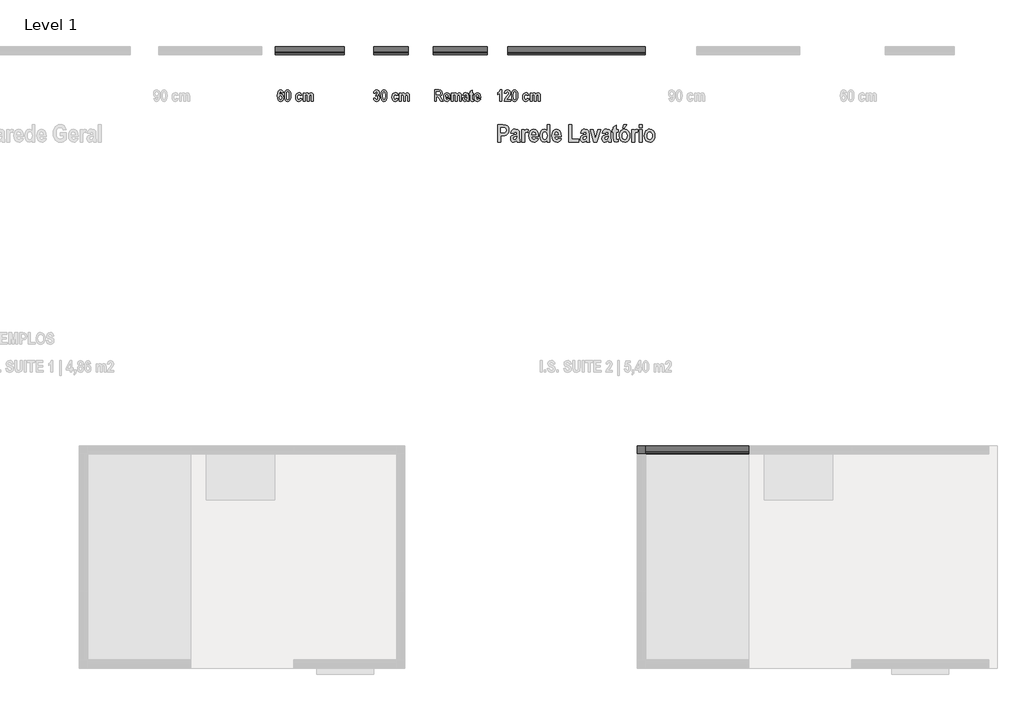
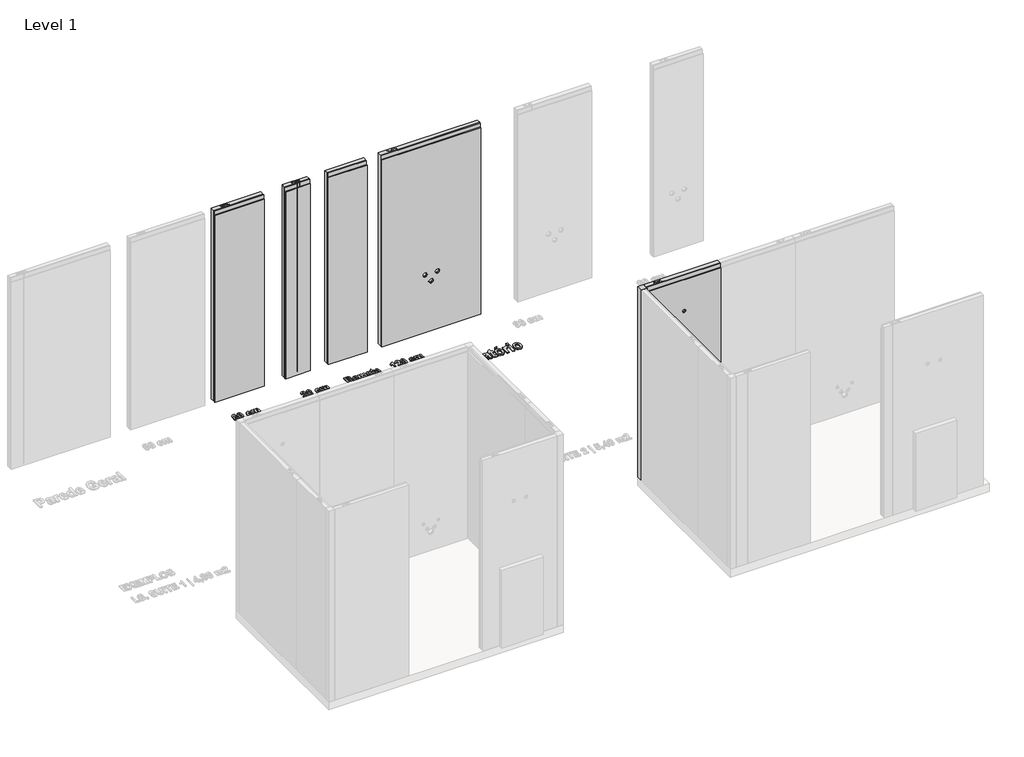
# One storey, part 6 of 10: 11 proxies.
"""IFC4 building model written with IfcOpenShell, lengths in millimetres."""

from ifc_helpers import new_model, si_unit, origin, origin_with_axes, place, context, project, spatial, polyline, outline, extrude, transform, mapped, element, save
from components import generic_models_3c551f1f, generic_models_cf899abb, generic_models_8d7f3108, generic_models_87e237a0, generic_models_6947934f, generic_models_43d2ec2c

model = new_model("IFC4")

# Units and contexts
model_context = context("Model", 3, world=origin())
ifc_project = project(units=[si_unit("LENGTHUNIT", "METRE", prefix="MILLI")], contexts=[model_context])

# Site, building, storey
site = spatial("IfcSite", under=ifc_project)
building = spatial("IfcBuilding", under=site)
storey = spatial("IfcBuildingStorey", under=building, Name="Level 1", Elevation=0.0)

# Proxies
placement = place(None, origin())
generic_models_shape = generic_models_3c551f1f(model_context)
element("IfcBuildingElementProxy", 1, Name="ParedeGeral_Blufab : Parede Geral - Largura 60 cm", ObjectType="ParedeGeral_Blufab : Parede Geral - Largura 60 cm", at=placement, inside=storey, context=model_context, shape_type="MappedRepresentation", body=[
    mapped(generic_models_shape, transform((-7130.3941269, 7918.7563997, 0.0), x_axis=(1.0, 0.0, 0.0), y_axis=(0.0, 1.0, 0.0), z_axis=(0.0, 0.0, 1.0))),
])
generic_models_2_shape = generic_models_cf899abb(model_context)
element("IfcBuildingElementProxy", 2, Name="ParedeLavatório_Blufab : Parede Lavatório - Largura 120 cm", ObjectType="ParedeLavatório_Blufab : Parede Lavatório - Largura 120 cm", at=placement, inside=storey, context=model_context, shape_type="MappedRepresentation", body=[
    mapped(generic_models_2_shape, transform((-5100.8727752, 7918.7563997, 0.0), x_axis=(1.0, 0.0, 0.0), y_axis=(0.0, 1.0, 0.0), z_axis=(0.0, 0.0, 1.0))),
])
generic_models_3_shape = generic_models_8d7f3108(model_context)
element("IfcBuildingElementProxy", 3, Name="ParedeDuche_Blufab : Parede Duche- Largura 90 cm", ObjectType="ParedeDuche_Blufab : Parede Duche- Largura 90 cm", at=placement, inside=storey, context=model_context, shape_type="MappedRepresentation", body=[
    mapped(generic_models_3_shape, transform((-3896.3404571, 4427.3727477, 0.0), x_axis=(1.0, 0.0, 0.0), y_axis=(0.0, 1.0, 0.0), z_axis=(0.0, 0.0, 1.0))),
])
generic_models_4_shape = generic_models_87e237a0(model_context)
element("IfcBuildingElementProxy", 4, Name="PerfilCanto_Blufab : Parede Geral - Largura 60 cm", ObjectType="PerfilCanto_Blufab : Parede Geral - Largura 60 cm", at=placement, inside=storey, context=model_context, shape_type="MappedRepresentation", body=[
    mapped(generic_models_4_shape, transform((-3969.3404571, 4427.3727477, 0.0), x_axis=(1.0, 0.0, 0.0), y_axis=(0.0, 1.0, 0.0), z_axis=(0.0, 0.0, 1.0))),
])
generic_models_5_shape = generic_models_6947934f(model_context)
element("IfcBuildingElementProxy", 5, Name="ParedeGeralRemate_Blufab : Parede Geral - Remate cm", ObjectType="ParedeGeralRemate_Blufab : Parede Geral - Remate cm", at=placement, inside=storey, context=model_context, shape_type="MappedRepresentation", body=[
    mapped(generic_models_5_shape, transform((-5750.8727752, 7918.7563997, 0.0), x_axis=(1.0, 0.0, 0.0), y_axis=(0.0, 1.0, 0.0), z_axis=(0.0, 0.0, 1.0))),
])
generic_models_6_shape = generic_models_43d2ec2c(model_context)
element("IfcBuildingElementProxy", 6, Name="ParedeGeral_Blufab : Parede Geral - Largura 30 cm", ObjectType="ParedeGeral_Blufab : Parede Geral - Largura 30 cm", at=placement, inside=storey, context=model_context, shape_type="MappedRepresentation", body=[
    mapped(generic_models_6_shape, transform((-6270.8727752, 7918.7563997, 0.0), x_axis=(1.0, 0.0, 0.0), y_axis=(0.0, 1.0, 0.0), z_axis=(0.0, 0.0, 1.0))),
])
element("IfcBuildingElementProxy", 7, Name="24\" Arial", ObjectType="24\" Arial", at=placement, inside=storey, context=model_context, shape_type="SweptSolid", body=[
    extrude(outline(polyline([(-7061.2837353, 7587.6015223), (-7077.5286714, 7585.9770287), (-7080.1875106, 7594.5056202), (-7086.0826456, 7597.348484), (-7094.1924223, 7591.8150526), (-7098.2663476, 7569.3767347), (-7091.6922251, 7575.7351042), (-7083.6966706, 7577.8545607), (-7074.6477335, 7575.6145363), (-7066.8425494, 7568.8944631), (-7061.4550686, 7558.4558226), (-7059.6592417, 7545.060096), (-7061.5121797, 7530.9504806), (-7067.0709938, 7520.2484944), (-7075.3647952, 7513.4998656), (-7085.422695, 7511.2503227), (-7096.4229281, 7514.182026), (-7105.3608158, 7522.977136), (-7111.2908521, 7538.5557759), (-7113.2675308, 7561.838069), (-7111.2178768, 7585.5360041), (-7105.0689146, 7601.4985575), (-7095.7026937, 7610.5697044), (-7084.0012631, 7613.5934201), (-7075.8343753, 7611.9816178), (-7069.0508454, 7607.1462111), (-7064.0631423, 7599.0364344), (-7061.2837353, 7587.6015223)]), holes=[polyline([(-7097.0225947, 7545.6692811), (-7093.6086199, 7532.1656779), (-7085.8034357, 7527.4952588), (-7078.7216589, 7531.3661225), (-7075.9041778, 7544.0701702), (-7078.9627947, 7557.421477), (-7086.5395344, 7561.6096246), (-7093.9639778, 7557.6118474), (-7097.0225947, 7545.6692811)])]), origin_with_axes(), (0.0, 0.0, 1.0), 10.0),
    extrude(outline(polyline([(-7023.1335182, 7613.5934201), (-7012.2760629, 7610.7473834), (-7003.715743, 7602.2092735), (-6998.156929, 7586.564004), (-6996.303991, 7562.3964887), (-6998.156929, 7538.2670475), (-7003.715743, 7522.6344693), (-7012.2633715, 7514.0963594), (-7023.0827528, 7511.2503227), (-7033.9402081, 7514.0709767), (-7042.500528, 7522.5329385), (-7048.059342, 7538.1908994), (-7049.9122801, 7562.5995504), (-7048.059342, 7586.6147694), (-7042.500528, 7602.2092735), (-7033.9528995, 7610.7473834), (-7023.1335182, 7613.5934201)]), holes=[polyline([(-7023.1081355, 7597.348484), (-7030.7990974, 7591.256633), (-7033.667344, 7562.3964887), (-7030.7990974, 7533.5617271), (-7023.1081355, 7527.4952588), (-7015.3790995, 7533.5871099), (-7012.548927, 7562.3964887), (-7015.3790995, 7591.256633), (-7023.1081355, 7597.348484)])]), origin_with_axes(), (0.0, 0.0, 1.0), 10.0),
    extrude(outline(polyline([(-6898.8343744, 7564.8586118), (-6915.0793105, 7561.6096246), (-6918.4869397, 7568.9198458), (-6925.4100746, 7571.3565863), (-6934.4082462, 7566.5719449), (-6937.822221, 7550.4158483), (-6934.5224684, 7532.6733322), (-6925.6892844, 7527.4952588), (-6918.8867174, 7530.3635053), (-6915.0793105, 7540.4912077), (-6898.8343744, 7537.2422205), (-6902.2880098, 7525.8707652), (-6907.9531139, 7517.7482972), (-6915.829687, 7512.8748163), (-6925.9177288, 7511.2503227), (-6938.3838136, 7514.0360754), (-6947.1503679, 7522.3933336), (-6952.3379598, 7534.6722208), (-6954.0671571, 7549.2228608), (-6952.0809599, 7565.7596981), (-6946.1223681, 7577.8037953), (-6936.9401718, 7585.1520906), (-6925.283161, 7587.6015223), (-6915.8154092, 7586.2403744), (-6908.2767435, 7582.1569305), (-6898.8343744, 7564.8586118)])), origin_with_axes(), (0.0, 0.0, 1.0), 10.0),
    extrude(outline(polyline([(-6887.4629192, 7585.9770287), (-6872.8424767, 7585.9770287), (-6872.8424767, 7576.0777708), (-6864.2885025, 7584.7459672), (-6854.2369483, 7587.6015223), (-6844.2996163, 7584.7332758), (-6837.4082098, 7576.0523881), (-6828.9050011, 7584.7332758), (-6819.2341876, 7587.6015223), (-6808.7384359, 7584.6825104), (-6802.0373998, 7576.3189066), (-6799.7402643, 7559.6043903), (-6799.7402643, 7512.8748163), (-6815.9852004, 7512.8748163), (-6815.9852004, 7553.6394528), (-6817.8508297, 7567.8283892), (-6824.1076684, 7571.3565863), (-6832.35705, 7566.4196487), (-6835.4791237, 7547.1160957), (-6835.4791237, 7512.8748163), (-6851.7240598, 7512.8748163), (-6851.7240598, 7551.9641938), (-6852.9678127, 7566.9146115), (-6859.6434661, 7571.3565863), (-6865.8622307, 7569.0721421), (-6869.9615388, 7562.3964887), (-6871.2179831, 7547.5222191), (-6871.2179831, 7512.8748163), (-6887.4629192, 7512.8748163), (-6887.4629192, 7585.9770287)])), origin_with_axes(), (0.0, 0.0, 1.0), 10.0),
])
element("IfcBuildingElementProxy", 8, Name="24\" Arial", ObjectType="24\" Arial", at=placement, inside=storey, context=model_context, shape_type="SweptSolid", body=[
    extrude(outline(polyline([(-6272.7888825, 7540.4912077), (-6256.5439464, 7542.1157013), (-6252.9903667, 7531.2519003), (-6245.9593553, 7527.4952588), (-6238.4841464, 7531.9499249), (-6235.4255295, 7544.2986146), (-6238.5856772, 7555.8096748), (-6246.2385651, 7559.985131), (-6253.2949592, 7558.5383164), (-6251.5943175, 7576.2300671), (-6242.1011829, 7579.1236963), (-6238.6745167, 7587.6015223), (-6241.2254794, 7594.7594473), (-6247.7615279, 7597.348484), (-6254.6910084, 7594.0614227), (-6258.16844, 7584.3525351), (-6272.7888825, 7585.9770287), (-6269.4161546, 7598.4875332), (-6263.866859, 7607.0319889), (-6256.3630946, 7611.9530623), (-6247.12696, 7613.5934201), (-6236.9484923, 7611.6548154), (-6229.1052341, 7605.8390014), (-6224.098494, 7597.6689408), (-6222.4295806, 7588.6675963), (-6225.4755062, 7577.2073015), (-6234.6132827, 7568.2598953), (-6223.4829632, 7559.9089829), (-6219.1805934, 7543.7909603), (-6221.1858277, 7530.9187522), (-6227.2015306, 7520.4769388), (-6235.9839492, 7513.5569767), (-6246.2893305, 7511.2503227), (-6256.0807119, 7513.2111373), (-6264.2349084, 7519.0935809), (-6270.0412039, 7528.3646167), (-6272.7888825, 7540.4912077)])), origin_with_axes(), (0.0, 0.0, 1.0), 10.0),
    extrude(outline(polyline([(-6182.6548699, 7613.5934201), (-6171.7974146, 7610.7473834), (-6163.2370948, 7602.2092735), (-6157.6782807, 7586.564004), (-6155.8253427, 7562.3964887), (-6157.6782807, 7538.2670475), (-6163.2370948, 7522.6344693), (-6171.7847232, 7514.0963594), (-6182.6041045, 7511.2503227), (-6193.4615598, 7514.0709767), (-6202.0218797, 7522.5329385), (-6207.5806937, 7538.1908994), (-6209.4336318, 7562.5995504), (-6207.5806937, 7586.6147694), (-6202.0218797, 7602.2092735), (-6193.4742512, 7610.7473834), (-6182.6548699, 7613.5934201)]), holes=[polyline([(-6182.6294872, 7597.348484), (-6190.3204492, 7591.256633), (-6193.1886957, 7562.3964887), (-6190.3204492, 7533.5617271), (-6182.6294872, 7527.4952588), (-6174.9004512, 7533.5871099), (-6172.0702788, 7562.3964887), (-6174.9004512, 7591.256633), (-6182.6294872, 7597.348484)])]), origin_with_axes(), (0.0, 0.0, 1.0), 10.0),
    extrude(outline(polyline([(-6058.3557261, 7564.8586118), (-6074.6006622, 7561.6096246), (-6078.0082914, 7568.9198458), (-6084.9314263, 7571.3565863), (-6093.9295979, 7566.5719449), (-6097.3435728, 7550.4158483), (-6094.0438201, 7532.6733322), (-6085.2106361, 7527.4952588), (-6078.4080691, 7530.3635053), (-6074.6006622, 7540.4912077), (-6058.3557261, 7537.2422205), (-6061.8093615, 7525.8707652), (-6067.4744657, 7517.7482972), (-6075.3510387, 7512.8748163), (-6085.4390805, 7511.2503227), (-6097.9051653, 7514.0360754), (-6106.6717196, 7522.3933336), (-6111.8593115, 7534.6722208), (-6113.5885088, 7549.2228608), (-6111.6023116, 7565.7596981), (-6105.6437198, 7577.8037953), (-6096.4615235, 7585.1520906), (-6084.8045127, 7587.6015223), (-6075.3367609, 7586.2403744), (-6067.7980952, 7582.1569305), (-6058.3557261, 7564.8586118)])), origin_with_axes(), (0.0, 0.0, 1.0), 10.0),
    extrude(outline(polyline([(-6046.9842709, 7585.9770287), (-6032.3638284, 7585.9770287), (-6032.3638284, 7576.0777708), (-6023.8098542, 7584.7459672), (-6013.7583, 7587.6015223), (-6003.820968, 7584.7332758), (-5996.9295616, 7576.0523881), (-5988.4263528, 7584.7332758), (-5978.7555393, 7587.6015223), (-5968.2597876, 7584.6825104), (-5961.5587515, 7576.3189066), (-5959.261616, 7559.6043903), (-5959.261616, 7512.8748163), (-5975.5065521, 7512.8748163), (-5975.5065521, 7553.6394528), (-5977.3721815, 7567.8283892), (-5983.6290201, 7571.3565863), (-5991.8784017, 7566.4196487), (-5995.0004754, 7547.1160957), (-5995.0004754, 7512.8748163), (-6011.2454115, 7512.8748163), (-6011.2454115, 7551.9641938), (-6012.4891644, 7566.9146115), (-6019.1648178, 7571.3565863), (-6025.3835824, 7569.0721421), (-6029.4828905, 7562.3964887), (-6030.7393348, 7547.5222191), (-6030.7393348, 7512.8748163), (-6046.9842709, 7512.8748163), (-6046.9842709, 7585.9770287)])), origin_with_axes(), (0.0, 0.0, 1.0), 10.0),
])
element("IfcBuildingElementProxy", 9, Name="24\" Arial", ObjectType="24\" Arial", at=placement, inside=storey, context=model_context, shape_type="SweptSolid", body=[
    extrude(outline(polyline([(-5152.6551906, 7512.8748163), (-5168.9001267, 7512.8748163), (-5168.9001267, 7585.9770287), (-5188.39405, 7571.3565863), (-5188.39405, 7589.226016), (-5174.9285209, 7598.3891752), (-5165.245016, 7613.5934201), (-5152.6551906, 7613.5934201), (-5152.6551906, 7512.8748163)])), origin_with_axes(), (0.0, 0.0, 1.0), 10.0),
    extrude(outline(polyline([(-5076.303991, 7529.1197524), (-5076.303991, 7512.8748163), (-5131.5367737, 7512.8748163), (-5126.1556386, 7532.0768385), (-5108.6923323, 7555.9746624), (-5096.0517414, 7571.9150059), (-5092.548927, 7584.1240907), (-5095.3790995, 7594.0106573), (-5102.803543, 7597.348484), (-5110.5579617, 7593.6933734), (-5113.667344, 7582.7280415), (-5129.9122801, 7584.3525351), (-5127.0503792, 7597.446842), (-5121.3583059, 7606.5243346), (-5113.0771959, 7611.8261487), (-5102.448185, 7613.5934201), (-5091.0735569, 7611.4485809), (-5082.8908049, 7605.0140632), (-5077.9506944, 7595.8064842), (-5076.303991, 7585.3424609), (-5077.97925, 7573.1714502), (-5083.144632, 7561.3050321), (-5094.7826058, 7546.0754045), (-5104.3899625, 7534.5516529), (-5107.6516411, 7529.1197524), (-5076.303991, 7529.1197524)])), origin_with_axes(), (0.0, 0.0, 1.0), 10.0),
    extrude(outline(polyline([(-5039.7782675, 7613.5934201), (-5028.9208121, 7610.7473834), (-5020.3604923, 7602.2092735), (-5014.8016782, 7586.564004), (-5012.9487402, 7562.3964887), (-5014.8016782, 7538.2670475), (-5020.3604923, 7522.6344693), (-5028.9081208, 7514.0963594), (-5039.727502, 7511.2503227), (-5050.5849574, 7514.0709767), (-5059.1452772, 7522.5329385), (-5064.7040913, 7538.1908994), (-5066.5570293, 7562.5995504), (-5064.7040913, 7586.6147694), (-5059.1452772, 7602.2092735), (-5050.5976487, 7610.7473834), (-5039.7782675, 7613.5934201)]), holes=[polyline([(-5039.7528848, 7597.348484), (-5047.4438467, 7591.256633), (-5050.3120932, 7562.3964887), (-5047.4438467, 7533.5617271), (-5039.7528848, 7527.4952588), (-5032.0238488, 7533.5871099), (-5029.1936763, 7562.3964887), (-5032.0238488, 7591.256633), (-5039.7528848, 7597.348484)])]), origin_with_axes(), (0.0, 0.0, 1.0), 10.0),
    extrude(outline(polyline([(-4915.4791237, 7564.8586118), (-4931.7240598, 7561.6096246), (-4935.1316889, 7568.9198458), (-4942.0548238, 7571.3565863), (-4951.0529954, 7566.5719449), (-4954.4669703, 7550.4158483), (-4951.1672176, 7532.6733322), (-4942.3340336, 7527.4952588), (-4935.5314667, 7530.3635053), (-4931.7240598, 7540.4912077), (-4915.4791237, 7537.2422205), (-4918.932759, 7525.8707652), (-4924.5978632, 7517.7482972), (-4932.4744362, 7512.8748163), (-4942.5624781, 7511.2503227), (-4955.0285628, 7514.0360754), (-4963.7951172, 7522.3933336), (-4968.9827091, 7534.6722208), (-4970.7119064, 7549.2228608), (-4968.7257091, 7565.7596981), (-4962.7671173, 7577.8037953), (-4953.584921, 7585.1520906), (-4941.9279102, 7587.6015223), (-4932.4601584, 7586.2403744), (-4924.9214928, 7582.1569305), (-4915.4791237, 7564.8586118)])), origin_with_axes(), (0.0, 0.0, 1.0), 10.0),
    extrude(outline(polyline([(-4904.1076684, 7585.9770287), (-4889.4872259, 7585.9770287), (-4889.4872259, 7576.0777708), (-4880.9332518, 7584.7459672), (-4870.8816976, 7587.6015223), (-4860.9443656, 7584.7332758), (-4854.0529591, 7576.0523881), (-4845.5497504, 7584.7332758), (-4835.8789368, 7587.6015223), (-4825.3831852, 7584.6825104), (-4818.682149, 7576.3189066), (-4816.3850135, 7559.6043903), (-4816.3850135, 7512.8748163), (-4832.6299496, 7512.8748163), (-4832.6299496, 7553.6394528), (-4834.495579, 7567.8283892), (-4840.7524177, 7571.3565863), (-4849.0017993, 7566.4196487), (-4852.1238729, 7547.1160957), (-4852.1238729, 7512.8748163), (-4868.368809, 7512.8748163), (-4868.368809, 7551.9641938), (-4869.6125619, 7566.9146115), (-4876.2882154, 7571.3565863), (-4882.50698, 7569.0721421), (-4886.606288, 7562.3964887), (-4887.8627323, 7547.5222191), (-4887.8627323, 7512.8748163), (-4904.1076684, 7512.8748163), (-4904.1076684, 7585.9770287)])), origin_with_axes(), (0.0, 0.0, 1.0), 10.0),
])
element("IfcBuildingElementProxy", 10, Name="24\" Arial", ObjectType="24\" Arial", at=placement, inside=storey, context=model_context, shape_type="SweptSolid", body=[
    extrude(outline(polyline([(-5739.5398953, 7512.8748163), (-5739.5398953, 7613.5934201), (-5704.9178753, 7613.5934201), (-5685.9442976, 7610.8901612), (-5676.590768, 7601.5112489), (-5672.9356573, 7585.5455226), (-5674.322188, 7574.9165117), (-5678.48178, 7566.5846363), (-5685.1923347, 7560.733921), (-5694.2317532, 7557.5483906), (-5685.1574335, 7548.8421201), (-5675.2708669, 7532.3941224), (-5664.8131893, 7512.8748163), (-5686.6930876, 7512.8748163), (-5698.2422218, 7534.3739739), (-5706.7835046, 7549.337083), (-5711.6569855, 7553.8678973), (-5719.9190584, 7555.1116502), (-5723.2949592, 7555.1116502), (-5723.2949592, 7512.8748163), (-5739.5398953, 7512.8748163)]), holes=[polyline([(-5723.2949592, 7571.3565863), (-5710.7812819, 7571.3565863), (-5696.1989135, 7572.3718948), (-5691.1223709, 7576.4585115), (-5689.1805934, 7584.631745), (-5691.1223709, 7592.5003859), (-5696.4146665, 7596.5870026), (-5710.0959486, 7597.348484), (-5723.2949592, 7597.348484), (-5723.2949592, 7571.3565863)])]), origin_with_axes(), (0.0, 0.0, 1.0), 10.0),
    extrude(outline(polyline([(-5620.9518618, 7535.6177269), (-5604.7069258, 7532.3687396), (-5614.5681096, 7516.4410875), (-5630.8511198, 7511.2503227), (-5642.6350441, 7513.4713101), (-5651.3857343, 7520.1342722), (-5657.8012149, 7532.5083446), (-5659.9397085, 7549.0197991), (-5657.8139063, 7565.4931796), (-5651.4364997, 7578.3114495), (-5643.1934638, 7585.2790041), (-5632.8309714, 7587.6015223), (-5621.5102815, 7585.221893), (-5612.9309247, 7578.0830051), (-5606.7058144, 7564.6047847), (-5604.6307776, 7545.9484909), (-5604.7069258, 7543.7401949), (-5643.6947724, 7543.7401949), (-5639.8746741, 7531.7468632), (-5630.9780333, 7527.4952588), (-5624.714849, 7529.5258758), (-5620.9518618, 7535.6177269)]), holes=[polyline([(-5620.9518618, 7555.1116502), (-5624.4039108, 7567.2826609), (-5632.1456381, 7571.3565863), (-5640.1665753, 7567.1176732), (-5643.4155625, 7555.1116502), (-5620.9518618, 7555.1116502)])]), origin_with_axes(), (0.0, 0.0, 1.0), 10.0),
    extrude(outline(polyline([(-5593.3354705, 7585.9770287), (-5578.715028, 7585.9770287), (-5578.715028, 7576.0777708), (-5570.1610539, 7584.7459672), (-5560.1094997, 7587.6015223), (-5550.1721677, 7584.7332758), (-5543.2807612, 7576.0523881), (-5534.7775524, 7584.7332758), (-5525.1067389, 7587.6015223), (-5514.6109872, 7584.6825104), (-5507.9099511, 7576.3189066), (-5505.6128156, 7559.6043903), (-5505.6128156, 7512.8748163), (-5521.8577517, 7512.8748163), (-5521.8577517, 7553.6394528), (-5523.7233811, 7567.8283892), (-5529.9802197, 7571.3565863), (-5538.2296014, 7566.4196487), (-5541.351675, 7547.1160957), (-5541.351675, 7512.8748163), (-5557.5966111, 7512.8748163), (-5557.5966111, 7551.9641938), (-5558.840364, 7566.9146115), (-5565.5160174, 7571.3565863), (-5571.734782, 7569.0721421), (-5575.8340901, 7562.3964887), (-5577.0905344, 7547.5222191), (-5577.0905344, 7512.8748163), (-5593.3354705, 7512.8748163), (-5593.3354705, 7585.9770287)])), origin_with_axes(), (0.0, 0.0, 1.0), 10.0),
    extrude(outline(polyline([(-5476.3719307, 7561.6096246), (-5492.6168667, 7564.8586118), (-5484.113658, 7582.2965354), (-5476.8795849, 7586.2752756), (-5467.0564751, 7587.6015223), (-5451.9410697, 7584.7840412), (-5444.4912436, 7577.1057707), (-5442.2575649, 7559.452094), (-5442.4098611, 7536.8868625), (-5441.6864538, 7522.7486916), (-5439.0085777, 7512.8748163), (-5455.2535137, 7512.8748163), (-5457.2333653, 7520.7942227), (-5465.6096605, 7513.6362977), (-5475.102795, 7511.2503227), (-5482.7620286, 7512.703483), (-5488.885608, 7517.0629639), (-5494.2413604, 7532.5210359), (-5492.0584471, 7543.1944666), (-5485.9158306, 7550.4666138), (-5473.2244743, 7555.2893292), (-5458.502501, 7559.985131), (-5459.2259083, 7567.358809), (-5461.8910931, 7570.2397469), (-5467.3864504, 7571.3565863), (-5473.0341039, 7569.3005865), (-5476.3719307, 7561.6096246)]), holes=[polyline([(-5458.502501, 7546.9891821), (-5467.1072405, 7544.5524417), (-5475.9150418, 7540.9480965), (-5477.9964243, 7535.8461713), (-5475.6992888, 7529.9066165), (-5469.9501044, 7527.4952588), (-5463.845562, 7529.4370363), (-5459.6701057, 7534.0439987), (-5458.502501, 7543.7401949), (-5458.502501, 7546.9891821)])]), origin_with_axes(), (0.0, 0.0, 1.0), 10.0),
    extrude(outline(polyline([(-5400.020731, 7585.9770287), (-5400.020731, 7569.7320927), (-5411.3921863, 7569.7320927), (-5411.3921863, 7540.9988619), (-5410.8591493, 7530.1858264), (-5406.6202363, 7527.4952588), (-5399.7669039, 7529.3228141), (-5398.3962374, 7514.0931865), (-5411.3921863, 7511.2503227), (-5421.5198886, 7514.1058779), (-5426.6218139, 7522.3171854), (-5427.6371224, 7538.3082944), (-5427.6371224, 7569.7320927), (-5435.7595904, 7569.7320927), (-5435.7595904, 7585.9770287), (-5427.6371224, 7585.9770287), (-5427.6371224, 7600.5974712), (-5411.3921863, 7611.9689265), (-5411.3921863, 7585.9770287), (-5400.020731, 7585.9770287)])), origin_with_axes(), (0.0, 0.0, 1.0), 10.0),
    extrude(outline(polyline([(-5354.53491, 7535.6177269), (-5338.2899739, 7532.3687396), (-5348.1511578, 7516.4410875), (-5364.4341679, 7511.2503227), (-5376.2180923, 7513.4713101), (-5384.9687824, 7520.1342722), (-5391.3842631, 7532.5083446), (-5393.5227566, 7549.0197991), (-5391.3969544, 7565.4931796), (-5385.0195479, 7578.3114495), (-5376.7765119, 7585.2790041), (-5366.4140195, 7587.6015223), (-5355.0933297, 7585.221893), (-5346.5139728, 7578.0830051), (-5340.2888625, 7564.6047847), (-5338.2138258, 7545.9484909), (-5338.2899739, 7543.7401949), (-5377.2778205, 7543.7401949), (-5373.4577223, 7531.7468632), (-5364.5610815, 7527.4952588), (-5358.2978971, 7529.5258758), (-5354.53491, 7535.6177269)]), holes=[polyline([(-5354.53491, 7555.1116502), (-5357.9869589, 7567.2826609), (-5365.7286863, 7571.3565863), (-5373.7496235, 7567.1176732), (-5376.9986107, 7555.1116502), (-5354.53491, 7555.1116502)])]), origin_with_axes(), (0.0, 0.0, 1.0), 10.0),
])
element("IfcBuildingElementProxy", 11, Name="24\" Arial 2", ObjectType="24\" Arial 2", at=placement, inside=storey, context=model_context, shape_type="SweptSolid", body=[
    extrude(outline(polyline([(-5185.9573096, 7157.133031), (-5185.9573096, 7308.2109366), (-5145.7130187, 7308.2109366), (-5116.3198374, 7306.0407147), (-5106.2444869, 7300.4961784), (-5098.1013954, 7290.9443464), (-5092.7186739, 7277.7183667), (-5090.9244334, 7261.1513874), (-5092.4854703, 7245.9598339), (-5097.1685807, 7233.4334652), (-5104.1932465, 7223.9054294), (-5112.778949, 7217.7088747), (-5125.5242436, 7214.3107641), (-5145.0276854, 7213.1780605), (-5161.5899054, 7213.1780605), (-5161.5899054, 7157.133031), (-5185.9573096, 7157.133031)]), holes=[polyline([(-5161.5899054, 7283.8435325), (-5161.5899054, 7237.5454646), (-5147.0836852, 7237.5454646), (-5127.2470952, 7239.6585755), (-5118.6423556, 7247.2733893), (-5115.2918376, 7260.8087208), (-5118.7565778, 7274.4963486), (-5127.3042063, 7281.9588661), (-5148.8350923, 7283.8435325), (-5161.5899054, 7283.8435325)])]), origin_with_axes(), (0.0, 0.0, 1.0), 10.0),
    extrude(outline(polyline([(-5049.4998464, 7230.2352434), (-5073.8672505, 7235.1087242), (-5068.7558068, 7250.7476481), (-5061.1124374, 7261.2656096), (-5050.2613278, 7267.2337199), (-5035.5266631, 7269.22309), (-5012.853555, 7264.9968684), (-5001.6788158, 7253.4794625), (-4998.3282977, 7226.9989475), (-4998.5567421, 7193.1511002), (-4997.4716312, 7171.9438438), (-4993.4548169, 7157.133031), (-5017.822221, 7157.133031), (-5020.7919984, 7169.0121405), (-5033.3564412, 7158.2752531), (-5047.596143, 7154.6962906), (-5059.0849933, 7156.876031), (-5068.2703624, 7163.4152524), (-5074.2955838, 7173.5715103), (-5076.303991, 7186.6023604), (-5073.029621, 7202.6125064), (-5063.8156963, 7213.5207271), (-5044.7786619, 7220.7548002), (-5022.6957019, 7227.798503), (-5023.7808128, 7238.85902), (-5027.7785901, 7243.1804268), (-5036.021626, 7244.8556859), (-5044.4931063, 7241.7716863), (-5049.4998464, 7230.2352434)]), holes=[polyline([(-5022.6957019, 7208.3045797), (-5035.6028112, 7204.6494691), (-5048.8145132, 7199.2429513), (-5051.9365868, 7191.5900634), (-5048.4908836, 7182.6807313), (-5039.867107, 7179.0636947), (-5030.7102934, 7181.976361), (-5024.447109, 7188.8868045), (-5022.6957019, 7203.4310989), (-5022.6957019, 7208.3045797)])]), origin_with_axes(), (0.0, 0.0, 1.0), 10.0),
    extrude(outline(polyline([(-4952.0302299, 7157.133031), (-4976.397634, 7157.133031), (-4976.397634, 7266.7863496), (-4954.4669703, 7266.7863496), (-4954.4669703, 7251.3282776), (-4944.8532679, 7265.7012386), (-4935.0872692, 7269.22309), (-4920.3526045, 7263.7784982), (-4927.7008998, 7237.735835), (-4937.752454, 7242.4189455), (-4945.6528233, 7238.7828719), (-4950.5453412, 7225.6473181), (-4952.0302299, 7190.6762858), (-4952.0302299, 7157.133031)])), origin_with_axes(), (0.0, 0.0, 1.0), 10.0),
    extrude(outline(polyline([(-4856.9973538, 7191.2473968), (-4832.6299496, 7186.373916), (-4838.7075229, 7172.3483808), (-4847.4217254, 7162.4824377), (-4858.5441128, 7156.6428274), (-4871.8462406, 7154.6962906), (-4889.5221272, 7158.0277716), (-4902.6481624, 7168.0222147), (-4912.2713834, 7186.5833233), (-4915.4791237, 7211.3505052), (-4912.2904204, 7236.060576), (-4902.7243106, 7255.2879808), (-4890.3597567, 7265.7393127), (-4874.816018, 7269.22309), (-4857.8349833, 7265.6536461), (-4844.965948, 7254.9453142), (-4835.6282826, 7234.7279835), (-4832.5157274, 7206.7435429), (-4832.6299496, 7203.4310989), (-4891.1117195, 7203.4310989), (-4889.5839975, 7193.1273039), (-4885.3815722, 7185.4411013), (-4879.2754434, 7180.6580464), (-4872.036611, 7179.0636947), (-4862.6418345, 7182.1096202), (-4856.9973538, 7191.2473968)]), holes=[polyline([(-4856.9973538, 7220.4882817), (-4862.1754271, 7238.7447978), (-4873.7880182, 7244.8556859), (-4880.3557951, 7243.2660935), (-4885.819424, 7238.4973164), (-4890.6929048, 7220.4882817), (-4856.9973538, 7220.4882817)])]), origin_with_axes(), (0.0, 0.0, 1.0), 10.0),
    extrude(outline(polyline([(-4732.7235927, 7157.133031), (-4754.6542564, 7157.133031), (-4754.6542564, 7173.0860659), (-4767.5804028, 7159.2842159), (-4782.9052156, 7154.6962906), (-4797.0211766, 7158.4513456), (-4809.2143972, 7169.7165108), (-4817.638285, 7187.939712), (-4820.4462476, 7212.5688754), (-4817.7382294, 7237.1885202), (-4809.6141749, 7254.9262771), (-4797.5304173, 7265.6488868), (-4782.9432896, 7269.22309), (-4768.9891434, 7265.4347202), (-4757.0909968, 7254.0696106), (-4757.0909968, 7308.2109366), (-4732.7235927, 7308.2109366), (-4732.7235927, 7157.133031)]), holes=[polyline([(-4796.0788434, 7213.8633938), (-4793.5849919, 7192.8845818), (-4786.465141, 7182.528435), (-4776.0518831, 7179.0636947), (-4768.8320878, 7181.0673426), (-4762.6307738, 7187.0782862), (-4758.3617189, 7197.1250812), (-4756.9387005, 7211.236283), (-4758.3236448, 7226.6229661), (-4762.4784776, 7236.9933906), (-4768.7654582, 7242.8901121), (-4776.546846, 7244.8556859), (-4784.0807524, 7242.9234269), (-4790.3867701, 7237.1266499), (-4794.6558251, 7227.4463179), (-4796.0788434, 7213.8633938)])]), origin_with_axes(), (0.0, 0.0, 1.0), 10.0),
    extrude(outline(polyline([(-4657.1846399, 7191.2473968), (-4632.8172357, 7186.373916), (-4638.894809, 7172.3483808), (-4647.6090115, 7162.4824377), (-4658.7313989, 7156.6428274), (-4672.0335268, 7154.6962906), (-4689.7094133, 7158.0277716), (-4702.8354485, 7168.0222147), (-4712.4586695, 7186.5833233), (-4715.6664098, 7211.3505052), (-4712.4777065, 7236.060576), (-4702.9115967, 7255.2879808), (-4690.5470428, 7265.7393127), (-4675.0033041, 7269.22309), (-4658.0222694, 7265.6536461), (-4645.1532341, 7254.9453142), (-4635.8155687, 7234.7279835), (-4632.7030135, 7206.7435429), (-4632.8172357, 7203.4310989), (-4691.2990056, 7203.4310989), (-4689.7712836, 7193.1273039), (-4685.5688583, 7185.4411013), (-4679.4627295, 7180.6580464), (-4672.2238971, 7179.0636947), (-4662.8291206, 7182.1096202), (-4657.1846399, 7191.2473968)]), holes=[polyline([(-4657.1846399, 7220.4882817), (-4662.3627132, 7238.7447978), (-4673.9753043, 7244.8556859), (-4680.5430812, 7243.2660935), (-4686.0067101, 7238.4973164), (-4690.8801909, 7220.4882817), (-4657.1846399, 7220.4882817)])]), origin_with_axes(), (0.0, 0.0, 1.0), 10.0),
    extrude(outline(polyline([(-4567.0252446, 7157.133031), (-4567.0252446, 7308.2109366), (-4542.6578404, 7308.2109366), (-4542.6578404, 7181.5004351), (-4479.3025897, 7181.5004351), (-4479.3025897, 7157.133031), (-4567.0252446, 7157.133031)])), origin_with_axes(), (0.0, 0.0, 1.0), 10.0),
    extrude(outline(polyline([(-4440.3147431, 7230.2352434), (-4464.6821472, 7235.1087242), (-4459.5707034, 7250.7476481), (-4451.9273341, 7261.2656096), (-4441.0762244, 7267.2337199), (-4426.3415598, 7269.22309), (-4403.6684517, 7264.9968684), (-4392.4937125, 7253.4794625), (-4389.1431944, 7226.9989475), (-4389.3716388, 7193.1511002), (-4388.2865278, 7171.9438438), (-4384.2697136, 7157.133031), (-4408.6371177, 7157.133031), (-4411.6068951, 7169.0121405), (-4424.1713378, 7158.2752531), (-4438.4110396, 7154.6962906), (-4449.8998899, 7156.876031), (-4459.0852591, 7163.4152524), (-4465.1104805, 7173.5715103), (-4467.1188876, 7186.6023604), (-4463.8445177, 7202.6125064), (-4454.630593, 7213.5207271), (-4435.5935585, 7220.7548002), (-4413.5105985, 7227.798503), (-4414.5957095, 7238.85902), (-4418.5934867, 7243.1804268), (-4426.8365227, 7244.8556859), (-4435.308003, 7241.7716863), (-4440.3147431, 7230.2352434)]), holes=[polyline([(-4413.5105985, 7208.3045797), (-4426.4177079, 7204.6494691), (-4439.6294098, 7199.2429513), (-4442.7514835, 7191.5900634), (-4439.3057802, 7182.6807313), (-4430.6820036, 7179.0636947), (-4421.52519, 7181.976361), (-4415.2620057, 7188.8868045), (-4413.5105985, 7203.4310989), (-4413.5105985, 7208.3045797)])]), origin_with_axes(), (0.0, 0.0, 1.0), 10.0),
    extrude(outline(polyline([(-4347.3759407, 7157.133031), (-4379.3962327, 7266.7863496), (-4354.0008287, 7266.7863496), (-4339.0757937, 7210.0179128), (-4334.3165351, 7191.8185078), (-4329.2526839, 7211.1601349), (-4314.6322414, 7266.7863496), (-4289.2368374, 7266.7863496), (-4321.2571294, 7157.133031), (-4347.3759407, 7157.133031)])), origin_with_axes(), (0.0, 0.0, 1.0), 10.0),
    extrude(outline(polyline([(-4250.2489908, 7230.2352434), (-4274.616395, 7235.1087242), (-4269.5049512, 7250.7476481), (-4261.8615819, 7261.2656096), (-4251.0104722, 7267.2337199), (-4236.2758075, 7269.22309), (-4213.6026995, 7264.9968684), (-4202.4279602, 7253.4794625), (-4199.0774421, 7226.9989475), (-4199.3058866, 7193.1511002), (-4198.2207756, 7171.9438438), (-4194.2039613, 7157.133031), (-4218.5713654, 7157.133031), (-4221.5411428, 7169.0121405), (-4234.1055856, 7158.2752531), (-4248.3452874, 7154.6962906), (-4259.8341377, 7156.876031), (-4269.0195068, 7163.4152524), (-4275.0447282, 7173.5715103), (-4277.0531354, 7186.6023604), (-4273.7787654, 7202.6125064), (-4264.5648408, 7213.5207271), (-4245.5278063, 7220.7548002), (-4223.4448463, 7227.798503), (-4224.5299572, 7238.85902), (-4228.5277345, 7243.1804268), (-4236.7707704, 7244.8556859), (-4245.2422508, 7241.7716863), (-4250.2489908, 7230.2352434)]), holes=[polyline([(-4223.4448463, 7208.3045797), (-4236.3519557, 7204.6494691), (-4249.5636576, 7199.2429513), (-4252.6857312, 7191.5900634), (-4249.240028, 7182.6807313), (-4240.6162514, 7179.0636947), (-4231.4594378, 7181.976361), (-4225.1962534, 7188.8868045), (-4223.4448463, 7203.4310989), (-4223.4448463, 7208.3045797)])]), origin_with_axes(), (0.0, 0.0, 1.0), 10.0),
    extrude(outline(polyline([(-4135.7221914, 7266.7863496), (-4135.7221914, 7242.4189455), (-4152.7793743, 7242.4189455), (-4152.7793743, 7199.3190994), (-4151.9798188, 7183.099546), (-4145.6214493, 7179.0636947), (-4135.3414507, 7181.8050277), (-4133.285451, 7158.9605863), (-4152.7793743, 7154.6962906), (-4167.9709278, 7158.9796233), (-4175.6238157, 7171.2965847), (-4177.1467784, 7195.2832481), (-4177.1467784, 7242.4189455), (-4189.3304805, 7242.4189455), (-4189.3304805, 7266.7863496), (-4177.1467784, 7266.7863496), (-4177.1467784, 7288.7170133), (-4152.7793743, 7305.7741962), (-4152.7793743, 7266.7863496), (-4135.7221914, 7266.7863496)])), origin_with_axes(), (0.0, 0.0, 1.0), 10.0),
    extrude(outline(polyline([(-4125.9752297, 7213.5207271), (-4124.3808781, 7228.8740954), (-4119.5978232, 7242.7996862), (-4112.2400094, 7254.3599253), (-4102.921381, 7262.6172391), (-4091.9703269, 7267.5716273), (-4079.715236, 7269.22309), (-4060.4069237, 7264.9778313), (-4045.7341294, 7252.2420553), (-4036.4678529, 7233.8332429), (-4033.379094, 7212.5688754), (-4034.9877234, 7196.4825813), (-4039.8136117, 7182.0334721), (-4047.2523329, 7170.0972515), (-4056.6994613, 7161.549623), (-4067.6600339, 7156.4096237), (-4079.6390878, 7154.6962906), (-4097.9003631, 7158.513216), (-4112.7825648, 7169.9639922), (-4122.6770635, 7188.4870268), (-4125.9752297, 7213.5207271)]), holes=[polyline([(-4101.6078256, 7211.9596903), (-4099.9849184, 7197.6866737), (-4095.1161968, 7187.3828788), (-4087.9630311, 7181.1434907), (-4079.4867915, 7179.0636947), (-4071.1533297, 7181.1577685), (-4064.1239047, 7187.4399899), (-4059.3408498, 7197.8056552), (-4057.7464982, 7212.1500606), (-4059.3694054, 7226.2089106), (-4064.2381269, 7236.4793907), (-4071.3722556, 7242.7616121), (-4079.7913841, 7244.8556859), (-4088.1105682, 7242.7616121), (-4095.173308, 7236.4793907), (-4099.9991962, 7226.161318), (-4101.6078256, 7211.9596903)])]), origin_with_axes(), (0.0, 0.0, 1.0), 10.0),
    extrude(outline(polyline([(-4096.7343448, 7278.9700517), (-4085.6167166, 7308.2109366), (-4060.1832386, 7308.2109366), (-4082.3804208, 7278.9700517), (-4096.7343448, 7278.9700517)])), origin_with_axes(), (0.0, 0.0, 1.0), 10.0),
    extrude(outline(polyline([(-3991.954507, 7157.133031), (-4016.3219111, 7157.133031), (-4016.3219111, 7266.7863496), (-3994.3912474, 7266.7863496), (-3994.3912474, 7251.3282776), (-3984.777545, 7265.7012386), (-3975.0115463, 7269.22309), (-3960.2768816, 7263.7784982), (-3967.6251769, 7237.735835), (-3977.6767311, 7242.4189455), (-3985.5771005, 7238.7828719), (-3990.4696183, 7225.6473181), (-3991.954507, 7190.6762858), (-3991.954507, 7157.133031)])), origin_with_axes(), (0.0, 0.0, 1.0), 10.0),
    extrude(outline(polyline([(-3950.52992, 7281.4067921), (-3950.52992, 7308.2109366), (-3926.1625158, 7308.2109366), (-3926.1625158, 7281.4067921), (-3950.52992, 7281.4067921)])), origin_with_axes(), (0.0, 0.0, 1.0), 10.0),
    extrude(outline(polyline([(-3950.52992, 7157.133031), (-3950.52992, 7266.7863496), (-3926.1625158, 7266.7863496), (-3926.1625158, 7157.133031), (-3950.52992, 7157.133031)])), origin_with_axes(), (0.0, 0.0, 1.0), 10.0),
    extrude(outline(polyline([(-3906.6685925, 7213.5207271), (-3905.0742409, 7228.8740954), (-3900.291186, 7242.7996862), (-3892.9333722, 7254.3599253), (-3883.6147438, 7262.6172391), (-3872.6636897, 7267.5716273), (-3860.4085988, 7269.22309), (-3841.1002865, 7264.9778313), (-3826.4274922, 7252.2420553), (-3817.1612157, 7233.8332429), (-3814.0724568, 7212.5688754), (-3815.6810862, 7196.4825813), (-3820.5069745, 7182.0334721), (-3827.9456957, 7170.0972515), (-3837.3928241, 7161.549623), (-3848.3533967, 7156.4096237), (-3860.3324506, 7154.6962906), (-3878.5937259, 7158.513216), (-3893.4759276, 7169.9639922), (-3903.3704263, 7188.4870268), (-3906.6685925, 7213.5207271)]), holes=[polyline([(-3882.3011884, 7211.9596903), (-3880.6782812, 7197.6866737), (-3875.8095596, 7187.3828788), (-3868.6563939, 7181.1434907), (-3860.1801543, 7179.0636947), (-3851.8466925, 7181.1577685), (-3844.8172675, 7187.4399899), (-3840.0342126, 7197.8056552), (-3838.439861, 7212.1500606), (-3840.0627682, 7226.2089106), (-3844.9314897, 7236.4793907), (-3852.0656184, 7242.7616121), (-3860.4847469, 7244.8556859), (-3868.803931, 7242.7616121), (-3875.8666707, 7236.4793907), (-3880.692559, 7226.161318), (-3882.3011884, 7211.9596903)])]), origin_with_axes(), (0.0, 0.0, 1.0), 10.0),
])

save(model, "model.ifc")
